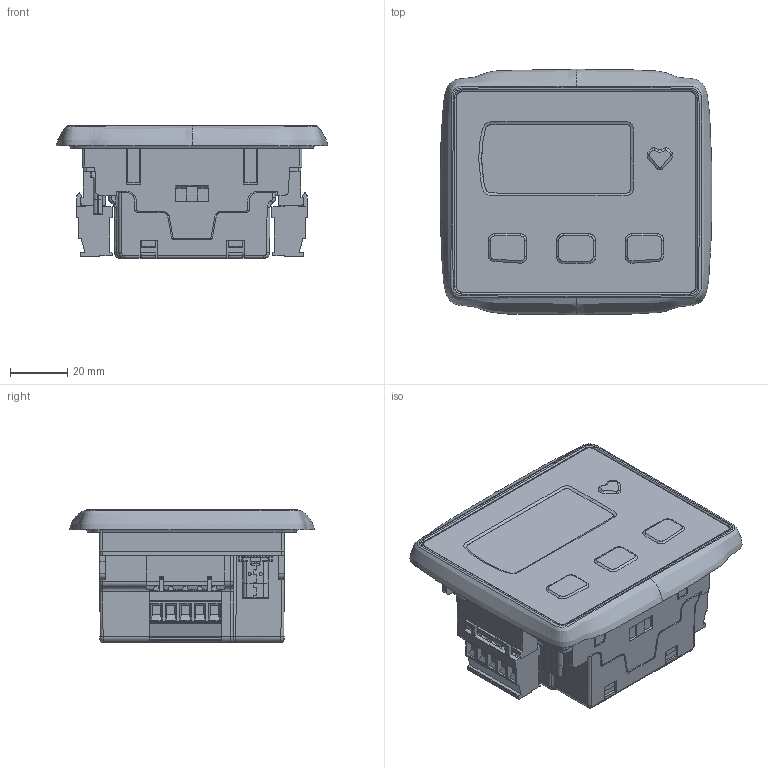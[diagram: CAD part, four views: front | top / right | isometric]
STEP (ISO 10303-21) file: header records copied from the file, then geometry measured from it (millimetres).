
FILE_DESCRIPTION (( 'STEP AP203' ), '1' );
FILE_NAME ('HGM1792 WZ.STEP', '2024-11-19T00:52:59', ( 'Sky123.Org' ), ( 'Sky123.Org' ), 'SwSTEP 2.0', 'SolidWorks 2018', '' );
FILE_SCHEMA (( 'CONFIG_CONTROL_DESIGN' ));
Products named in the file (1): HGM1792 WZ
Bounding box: 95.26 x 85.99 x 46.51 mm (x, y, z)
Volume: 225944.2 mm3; surface area: 45944.7 mm2
Topology: 6 solids, 6 shells, 2267 faces, 5965 edges, 3858 vertices
Faces by surface type: plane 1666, cylinder 464, bspline 99, cone 38
Entity records: 95434 total; most frequent: CARTESIAN_POINT 39584, ORIENTED_EDGE 11928, DIRECTION 11068, EDGE_CURVE 5964, LINE 4390, VECTOR 4390, VERTEX_POINT 3858, AXIS2_PLACEMENT_3D 3339
